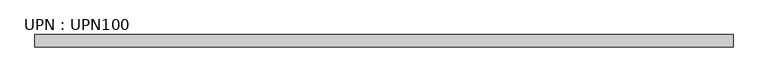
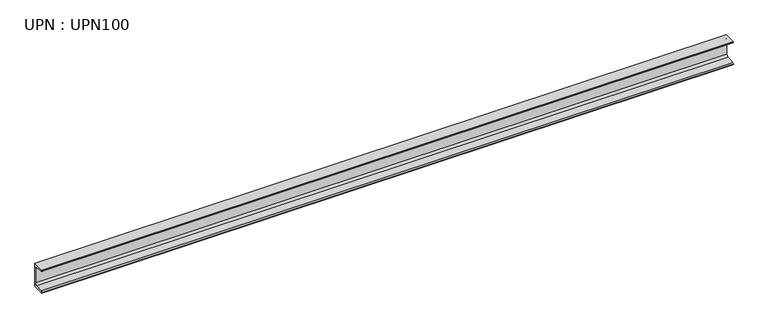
"""IFC4 building model written with IfcOpenShell, lengths in millimetres: beam geometry, UPN : UPN100."""

from ifc_helpers import new_model, si_unit, point, frame, frame_2d, origin, place, context, project, spatial, polyline, circle_curve, trimmed, segment, composite_curve, outline, extrude, source, transform, mapped, element, save


def upn_upn100_cb6639ca(model_context):
    return source(origin(), model_context, "Body", "SweptSolid", [
        extrude(outline(composite_curve([segment(polyline([(15.5, 50.0), (15.5, -50.0), (-34.5, -50.0), (-34.5, -47.6529404)]), True, "CONTINUOUS"), segment(trimmed(circle_curve(frame_2d((-30.0, -47.6529404)), 4.5), [point((-34.5, -47.6529404))], [point((-30.3585465, -43.1672471))], False, "CARTESIAN"), True, "CONTINUOUS"), segment(polyline([(-30.3585465, -43.1672471), (1.6772545, -40.6065895)]), True, "CONTINUOUS"), segment(trimmed(circle_curve(frame_2d((1.0, -32.1336133)), 8.5), [point((1.6772545, -40.6065895))], [point((9.5, -32.1336133))], True, "CARTESIAN"), True, "CONTINUOUS"), segment(polyline([(9.5, -32.1336133), (9.5, 32.1336133)]), True, "CONTINUOUS"), segment(trimmed(circle_curve(frame_2d((1.0, 32.1336133)), 8.5), [point((9.5, 32.1336133))], [point((1.6772545, 40.6065895))], True, "CARTESIAN"), True, "CONTINUOUS"), segment(polyline([(1.6772545, 40.6065895), (-30.3585465, 43.1672471)]), True, "CONTINUOUS"), segment(trimmed(circle_curve(frame_2d((-30.0, 47.6529404)), 4.5), [point((-30.3585465, 43.1672471))], [point((-34.5, 47.6529404))], False, "CARTESIAN"), True, "CONTINUOUS"), segment(polyline([(-34.5, 47.6529404), (-34.5, 50.0), (15.5, 50.0)]), True, "CONTINUOUS")], self_intersect=False)), frame((-1432.5, 0.0, 0.0), z_axis=(1.0, 0.0, 0.0), x_axis=(0.0, 1.0, 0.0)), (0.0, 0.0, 1.0), 2865.0),
    ])


if __name__ == "__main__":
    model = new_model("IFC4")
    model_context = context("Model", 3, world=origin())
    ifc_project = project(units=[si_unit("LENGTHUNIT", "METRE", prefix="MILLI")], contexts=[model_context])
    site = spatial("IfcSite", under=ifc_project)
    building = spatial("IfcBuilding", under=site)
    placement = place(None, origin())
    upn_upn100_shape = upn_upn100_cb6639ca(model_context)
    element("IfcBeam", 1, ObjectType="UPN : UPN100", at=placement, inside=building, context=model_context, shape_type="MappedRepresentation", body=[
        mapped(upn_upn100_shape, transform((0.0, 0.0, 0.0), x_axis=(1.0, 0.0, 0.0), y_axis=(0.0, 1.0, 0.0), z_axis=(0.0, 0.0, 1.0))),
    ])
    save(model, "model.ifc")
